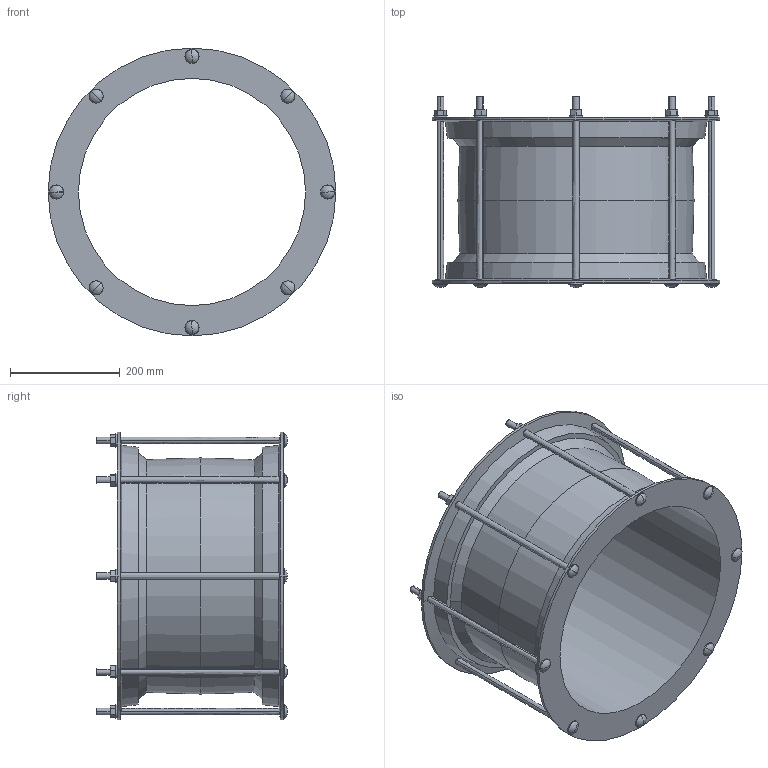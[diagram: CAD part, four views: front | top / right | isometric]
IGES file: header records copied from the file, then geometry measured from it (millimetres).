
Start section:  PTC IGES file: 394_411.igs
Global section: file name: 394_411.igs; native system: Creo Parametric by PTC Inc.; preprocessor: 2016130; author: mfairey; organization: Unknown; date: 20181218.111946; units: millimetre
Bounding box: 523.5 x 348 x 523.5 mm (x, y, z)
Surface area: 1182254.9 mm2 (no closed solid volume)
Topology: 0 solids, 0 shells, 178 faces, 848 edges, 832 vertices
Faces by surface type: revolution 102, bspline 76
